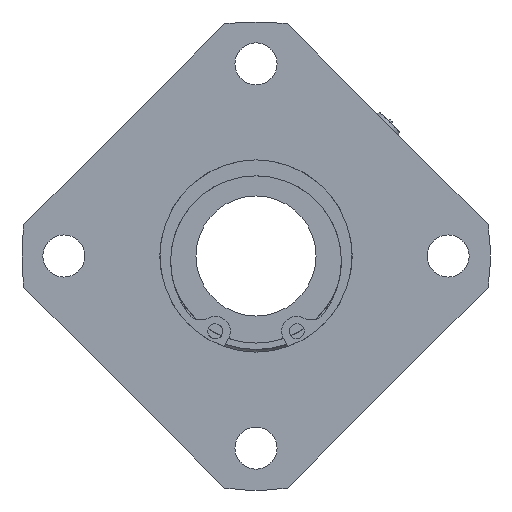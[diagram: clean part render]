
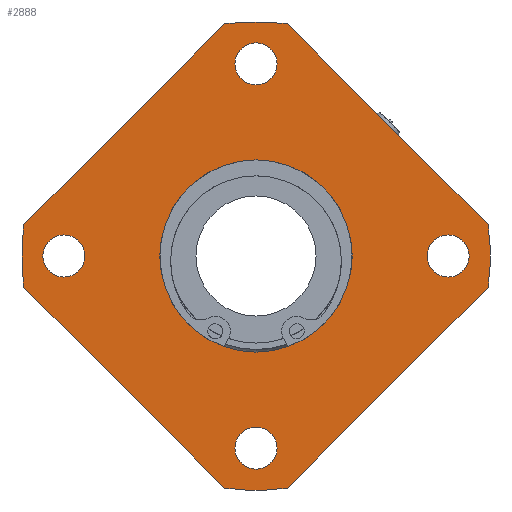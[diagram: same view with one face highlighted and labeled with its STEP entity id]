
A CAD part, left-side view. The second image highlights one B-rep face of the part: STEP entity #2888.
In plain terms, the highlighted planar face has unit normal (-1, 0, 0).
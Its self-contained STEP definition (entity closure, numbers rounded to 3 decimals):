
#2511=CARTESIAN_POINT('',(0.0,0.0,16.));
#2512=VERTEX_POINT('',#2511);
#2513=CARTESIAN_POINT('',(0.0,0.0,0.0));
#2514=DIRECTION('',(-1.0,0.0,0.0));
#2515=DIRECTION('',(0.0,0.0,1.0));
#2516=AXIS2_PLACEMENT_3D('',#2513,#2514,#2515);
#2517=CIRCLE('',#2516,16.);
#2518=EDGE_CURVE('',#2512,#2512,#2517,.T.);
#2603=CARTESIAN_POINT('',(0.0,-38.654,-5.187));
#2604=VERTEX_POINT('',#2603);
#2611=CARTESIAN_POINT('',(0.0,-5.187,-38.654));
#2612=VERTEX_POINT('',#2611);
#2613=CARTESIAN_POINT('',(0.0,-5.187,-38.654));
#2614=DIRECTION('',(0.0,-0.707,0.707));
#2615=VECTOR('',#2614,47.329);
#2616=LINE('',#2613,#2615);
#2617=EDGE_CURVE('',#2612,#2604,#2616,.T.);
#2643=CARTESIAN_POINT('',(0.0,38.654,5.187));
#2644=VERTEX_POINT('',#2643);
#2651=CARTESIAN_POINT('',(0.0,5.187,38.654));
#2652=VERTEX_POINT('',#2651);
#2653=CARTESIAN_POINT('',(0.0,5.187,38.654));
#2654=DIRECTION('',(0.0,0.707,-0.707));
#2655=VECTOR('',#2654,47.329);
#2656=LINE('',#2653,#2655);
#2657=EDGE_CURVE('',#2652,#2644,#2656,.T.);
#2683=CARTESIAN_POINT('',(0.0,5.187,-38.654));
#2684=VERTEX_POINT('',#2683);
#2691=CARTESIAN_POINT('',(0.0,38.654,-5.187));
#2692=VERTEX_POINT('',#2691);
#2693=CARTESIAN_POINT('',(0.0,38.654,-5.187));
#2694=DIRECTION('',(0.0,-0.707,-0.707));
#2695=VECTOR('',#2694,47.329);
#2696=LINE('',#2693,#2695);
#2697=EDGE_CURVE('',#2692,#2684,#2696,.T.);
#2723=CARTESIAN_POINT('',(0.0,-5.187,38.654));
#2724=VERTEX_POINT('',#2723);
#2731=CARTESIAN_POINT('',(0.0,-38.654,5.187));
#2732=VERTEX_POINT('',#2731);
#2733=CARTESIAN_POINT('',(0.0,-38.654,5.187));
#2734=DIRECTION('',(0.0,0.707,0.707));
#2735=VECTOR('',#2734,47.329);
#2736=LINE('',#2733,#2735);
#2737=EDGE_CURVE('',#2732,#2724,#2736,.T.);
#2762=CARTESIAN_POINT('',(0.0,0.0,0.0));
#2763=DIRECTION('',(-1.0,0.0,0.0));
#2764=DIRECTION('',(0.0,0.0,1.0));
#2765=AXIS2_PLACEMENT_3D('',#2762,#2763,#2764);
#2766=CIRCLE('',#2765,39.0);
#2767=EDGE_CURVE('',#2604,#2732,#2766,.T.);
#2786=CARTESIAN_POINT('',(0.0,0.0,0.0));
#2787=DIRECTION('',(-1.0,0.0,0.0));
#2788=DIRECTION('',(0.0,0.0,1.0));
#2789=AXIS2_PLACEMENT_3D('',#2786,#2787,#2788);
#2790=CIRCLE('',#2789,39.0);
#2791=EDGE_CURVE('',#2644,#2692,#2790,.T.);
#2802=CARTESIAN_POINT('',(0.0,0.0,0.0));
#2803=DIRECTION('',(-1.0,0.0,0.0));
#2804=DIRECTION('',(0.0,0.0,1.0));
#2805=AXIS2_PLACEMENT_3D('',#2802,#2803,#2804);
#2806=CIRCLE('',#2805,39.0);
#2807=EDGE_CURVE('',#2724,#2652,#2806,.T.);
#2820=CARTESIAN_POINT('',(0.0,0.0,27.5));
#2821=DIRECTION('',(-1.0,0.0,0.0));
#2822=DIRECTION('',(0.0,0.0,1.0));
#2823=AXIS2_PLACEMENT_3D('',#2820,#2821,#2822);
#2824=PLANE('',#2823);
#2825=ORIENTED_EDGE('',*,*,#2617,.T.);
#2826=ORIENTED_EDGE('',*,*,#2767,.T.);
#2827=ORIENTED_EDGE('',*,*,#2737,.T.);
#2828=ORIENTED_EDGE('',*,*,#2807,.T.);
#2829=ORIENTED_EDGE('',*,*,#2657,.T.);
#2830=ORIENTED_EDGE('',*,*,#2791,.T.);
#2831=ORIENTED_EDGE('',*,*,#2697,.T.);
#2832=CARTESIAN_POINT('',(0.0,0.0,0.0));
#2833=DIRECTION('',(-1.0,0.0,0.0));
#2834=DIRECTION('',(0.0,0.0,1.0));
#2835=AXIS2_PLACEMENT_3D('',#2832,#2833,#2834);
#2836=CIRCLE('',#2835,39.0);
#2837=EDGE_CURVE('',#2684,#2612,#2836,.T.);
#2838=ORIENTED_EDGE('',*,*,#2837,.T.);
#2839=EDGE_LOOP('',(#2825,#2826,#2827,#2828,#2829,#2830,#2831,#2838));
#2840=FACE_OUTER_BOUND('',#2839,.T.);
#2841=ORIENTED_EDGE('',*,*,#2518,.F.);
#2842=EDGE_LOOP('',(#2841));
#2843=FACE_BOUND('',#2842,.T.);
#2844=CARTESIAN_POINT('',(0.0,3.5,32.0));
#2845=VERTEX_POINT('',#2844);
#2846=CARTESIAN_POINT('',(0.0,0.,32.0));
#2847=DIRECTION('',(1.0,0.0,0.0));
#2848=DIRECTION('',(0.0,1.0,0.0));
#2849=AXIS2_PLACEMENT_3D('',#2846,#2847,#2848);
#2850=CIRCLE('',#2849,3.5);
#2851=EDGE_CURVE('',#2845,#2845,#2850,.T.);
#2852=ORIENTED_EDGE('',*,*,#2851,.T.);
#2853=EDGE_LOOP('',(#2852));
#2854=FACE_BOUND('',#2853,.T.);
#2855=CARTESIAN_POINT('',(0.0,-32.0,3.5));
#2856=VERTEX_POINT('',#2855);
#2857=CARTESIAN_POINT('',(0.0,-32.0,0.));
#2858=DIRECTION('',(1.0,0.0,0.0));
#2859=DIRECTION('',(0.0,0.0,1.0));
#2860=AXIS2_PLACEMENT_3D('',#2857,#2858,#2859);
#2861=CIRCLE('',#2860,3.5);
#2862=EDGE_CURVE('',#2856,#2856,#2861,.T.);
#2863=ORIENTED_EDGE('',*,*,#2862,.T.);
#2864=EDGE_LOOP('',(#2863));
#2865=FACE_BOUND('',#2864,.T.);
#2866=CARTESIAN_POINT('',(0.0,-3.5,-32.0));
#2867=VERTEX_POINT('',#2866);
#2868=CARTESIAN_POINT('',(0.0,0.,-32.0));
#2869=DIRECTION('',(1.0,0.0,0.0));
#2870=DIRECTION('',(0.0,-1.0,0.0));
#2871=AXIS2_PLACEMENT_3D('',#2868,#2869,#2870);
#2872=CIRCLE('',#2871,3.5);
#2873=EDGE_CURVE('',#2867,#2867,#2872,.T.);
#2874=ORIENTED_EDGE('',*,*,#2873,.T.);
#2875=EDGE_LOOP('',(#2874));
#2876=FACE_BOUND('',#2875,.T.);
#2877=CARTESIAN_POINT('',(0.0,32.0,-3.5));
#2878=VERTEX_POINT('',#2877);
#2879=CARTESIAN_POINT('',(0.0,32.0,0.));
#2880=DIRECTION('',(1.0,0.0,0.0));
#2881=DIRECTION('',(0.0,0.0,-1.0));
#2882=AXIS2_PLACEMENT_3D('',#2879,#2880,#2881);
#2883=CIRCLE('',#2882,3.5);
#2884=EDGE_CURVE('',#2878,#2878,#2883,.T.);
#2885=ORIENTED_EDGE('',*,*,#2884,.T.);
#2886=EDGE_LOOP('',(#2885));
#2887=FACE_BOUND('',#2886,.T.);
#2888=ADVANCED_FACE('',(#2840,#2843,#2854,#2865,#2876,#2887),#2824,.T.);
